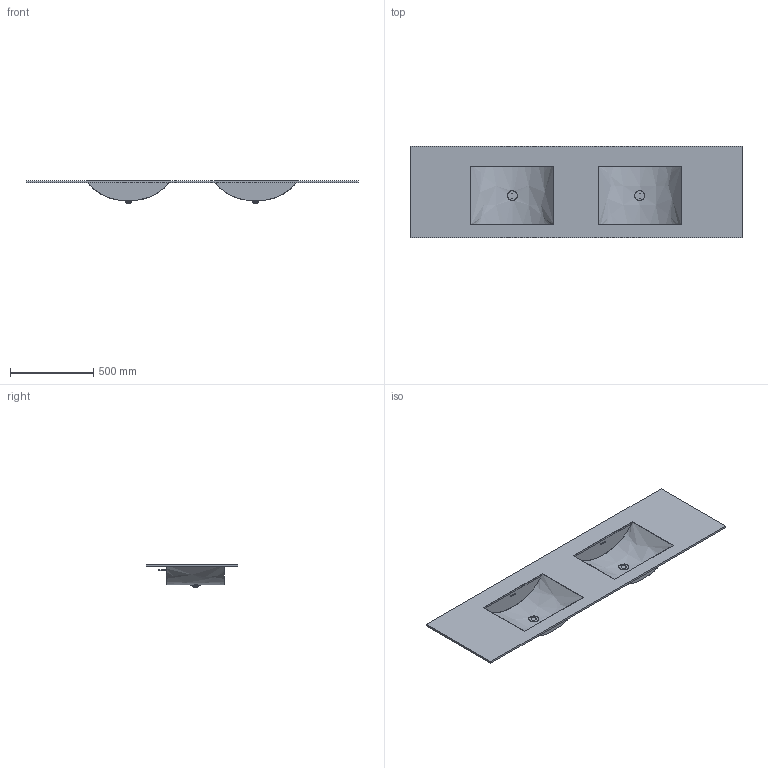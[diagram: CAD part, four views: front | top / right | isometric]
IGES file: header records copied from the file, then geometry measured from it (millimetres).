
Start section:  Autodesk Design for Windows version 2010 IGES version 5.3  Autodesk Design for Windows version 2010 IGES version 5.3
Global section: file name: D:\Desktop\GIOVANNI\SCHEDE PRODOTTO\PIANI LAVABO\CONCAVO\3D\MOMA DESIGN_PIANI LAVABO_CONCAVO MODULE DOUBLE.igs; native system: Rhinoceros ( Jan 17 2018 ); preprocessor: Trout Lake IGES 012 Jan 17 2018; date: 230606.074300; units: millimetre
Bounding box: 2000 x 550 x 132.84 mm (x, y, z)
Surface area: 2195918.7 mm2 (no closed solid volume)
Topology: 0 solids, 0 shells, 70 faces, 710 edges, 686 vertices
Faces by surface type: bspline 70
